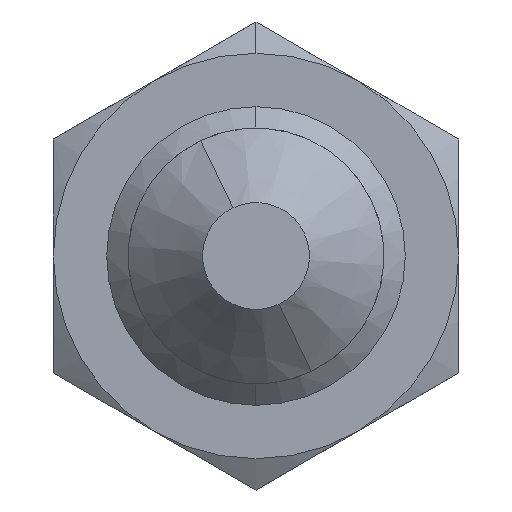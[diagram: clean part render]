
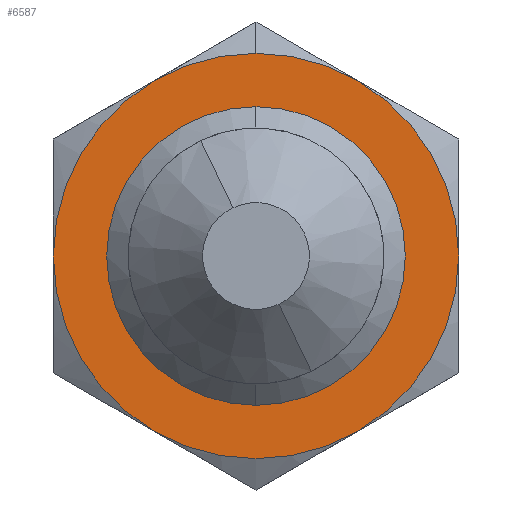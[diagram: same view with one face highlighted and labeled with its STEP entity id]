
A CAD part, left-side view. The second image highlights one B-rep face of the part: STEP entity #6587.
In plain terms, the highlighted planar face has unit normal (-1, 0, 0) as drawn and (0, 0, -1) by its records, which use the part's own axes.
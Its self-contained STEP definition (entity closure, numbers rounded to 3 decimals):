
#291 = VERTEX_POINT ( 'NONE', #1175 ) ;
#297 = VERTEX_POINT ( 'NONE', #1210 ) ;
#1175 = CARTESIAN_POINT ( 'NONE',  ( 8.227, 4.75, -2.5 ) ) ;
#1210 = CARTESIAN_POINT ( 'NONE',  ( 0., 9.5, -2.5 ) ) ;
#2352 = CARTESIAN_POINT ( 'NONE',  ( -8.227, -4.75, -2.5 ) ) ;
#2464 = CARTESIAN_POINT ( 'NONE',  ( 0., -9.5, -2.5 ) ) ;
#2560 = CARTESIAN_POINT ( 'NONE',  ( 8.227, -4.75, -2.5 ) ) ;
#2608 = DIRECTION ( 'NONE',  ( 1., 0., 0. ) ) ;
#2609 = DIRECTION ( 'NONE',  ( 0., 0., 1. ) ) ;
#2610 = CARTESIAN_POINT ( 'NONE',  ( 0., 0., -2.5 ) ) ;
#2611 = AXIS2_PLACEMENT_3D ( 'NONE', #2610, #2609, #2608 ) ;
#2612 = CIRCLE ( 'NONE', #2611, 9.5 ) ;
#2634 = DIRECTION ( 'NONE',  ( 1., 0., 0. ) ) ;
#2636 = DIRECTION ( 'NONE',  ( 0., 0., 1. ) ) ;
#2637 = CARTESIAN_POINT ( 'NONE',  ( 0., 0., -2.5 ) ) ;
#2638 = AXIS2_PLACEMENT_3D ( 'NONE', #2637, #2636, #2634 ) ;
#2639 = CIRCLE ( 'NONE', #2638, 9.5 ) ;
#3410 = AXIS2_PLACEMENT_3D ( 'NONE', #3413, #3472, #3471 ) ;
#3411 = PLANE ( 'NONE',  #3410 ) ;
#3413 = CARTESIAN_POINT ( 'NONE',  ( 5.485, 9.5, -2.5 ) ) ;
#3414 = FACE_OUTER_BOUND ( 'NONE', #6156, .T. ) ;
#3418 = FACE_BOUND ( 'NONE', #6684, .T. ) ;
#3446 = DIRECTION ( 'NONE',  ( 1., 0., 0. ) ) ;
#3447 = DIRECTION ( 'NONE',  ( 0., 0., 1. ) ) ;
#3448 = CARTESIAN_POINT ( 'NONE',  ( 0., 0., -2.5 ) ) ;
#3449 = AXIS2_PLACEMENT_3D ( 'NONE', #3448, #3447, #3446 ) ;
#3450 = CIRCLE ( 'NONE', #3449, 9.5 ) ;
#3471 = DIRECTION ( 'NONE',  ( 1., 0., 0. ) ) ;
#3472 = DIRECTION ( 'NONE',  ( 0., 0., 1. ) ) ;
#3473 = CIRCLE ( 'NONE', #3533, 9.5 ) ;
#3484 = DIRECTION ( 'NONE',  ( 1., 0., 0. ) ) ;
#3485 = DIRECTION ( 'NONE',  ( 0., 0., 1. ) ) ;
#3486 = CARTESIAN_POINT ( 'NONE',  ( 0., 0., -2.5 ) ) ;
#3487 = AXIS2_PLACEMENT_3D ( 'NONE', #3486, #3485, #3484 ) ;
#3488 = CIRCLE ( 'NONE', #3487, 9.5 ) ;
#3525 = DIRECTION ( 'NONE',  ( 1., 0., 0. ) ) ;
#3526 = DIRECTION ( 'NONE',  ( 0., 0., 1. ) ) ;
#3527 = CARTESIAN_POINT ( 'NONE',  ( 0., 0., -2.5 ) ) ;
#3528 = AXIS2_PLACEMENT_3D ( 'NONE', #3527, #3526, #3525 ) ;
#3529 = CIRCLE ( 'NONE', #3528, 9.5 ) ;
#3530 = DIRECTION ( 'NONE',  ( 1., 0., 0. ) ) ;
#3531 = DIRECTION ( 'NONE',  ( 0., 0., 1. ) ) ;
#3532 = CARTESIAN_POINT ( 'NONE',  ( 0., 0., -2.5 ) ) ;
#3533 = AXIS2_PLACEMENT_3D ( 'NONE', #3532, #3531, #3530 ) ;
#3606 = DIRECTION ( 'NONE',  ( 1., 0., 0. ) ) ;
#3607 = DIRECTION ( 'NONE',  ( 0., 0., 1. ) ) ;
#3608 = CARTESIAN_POINT ( 'NONE',  ( 0., 0., -2.5 ) ) ;
#3609 = AXIS2_PLACEMENT_3D ( 'NONE', #3608, #3607, #3606 ) ;
#3614 = CIRCLE ( 'NONE', #3609, 7. ) ;
#4142 = CARTESIAN_POINT ( 'NONE',  ( -9.5, 0., -2.5 ) ) ;
#4172 = CARTESIAN_POINT ( 'NONE',  ( 7., 0., -2.5 ) ) ;
#4173 = DIRECTION ( 'NONE',  ( 1., 0., 0. ) ) ;
#4174 = DIRECTION ( 'NONE',  ( 0., 0., 1. ) ) ;
#4175 = CARTESIAN_POINT ( 'NONE',  ( 0., 0., -2.5 ) ) ;
#4176 = AXIS2_PLACEMENT_3D ( 'NONE', #4175, #4174, #4173 ) ;
#4177 = CIRCLE ( 'NONE', #4176, 7. ) ;
#4178 = CARTESIAN_POINT ( 'NONE',  ( -7., 0., -2.5 ) ) ;
#4179 = DIRECTION ( 'NONE',  ( 1., 0., 0. ) ) ;
#4180 = DIRECTION ( 'NONE',  ( 0., 0., 1. ) ) ;
#4181 = CARTESIAN_POINT ( 'NONE',  ( 0., 0., -2.5 ) ) ;
#4182 = AXIS2_PLACEMENT_3D ( 'NONE', #4181, #4180, #4179 ) ;
#4186 = CIRCLE ( 'NONE', #4182, 9.5 ) ;
#4855 = CARTESIAN_POINT ( 'NONE',  ( -8.227, 4.75, -2.5 ) ) ;
#5957 = VERTEX_POINT ( 'NONE', #2352 ) ;
#6032 = VERTEX_POINT ( 'NONE', #2464 ) ;
#6080 = VERTEX_POINT ( 'NONE', #2560 ) ;
#6095 = ORIENTED_EDGE ( 'NONE', *, *, #6105, .F. ) ;
#6105 = EDGE_CURVE ( 'NONE', #6080, #291, #2612, .T. ) ;
#6121 = ORIENTED_EDGE ( 'NONE', *, *, #6123, .F. ) ;
#6123 = EDGE_CURVE ( 'NONE', #291, #297, #2639, .T. ) ;
#6156 = EDGE_LOOP ( 'NONE', ( #6121, #6095, #6625, #6626, #6613, #6578, #6581 ) ) ;
#6578 = ORIENTED_EDGE ( 'NONE', *, *, #6975, .F. ) ;
#6581 = ORIENTED_EDGE ( 'NONE', *, *, #6602, .F. ) ;
#6587 = ADVANCED_FACE ( 'NONE', ( #3418, #3414 ), #3411, .F. ) ;
#6602 = EDGE_CURVE ( 'NONE', #297, #7372, #3450, .T. ) ;
#6613 = ORIENTED_EDGE ( 'NONE', *, *, #6614, .F. ) ;
#6614 = EDGE_CURVE ( 'NONE', #6964, #5957, #3488, .T. ) ;
#6624 = EDGE_CURVE ( 'NONE', #6032, #6080, #3473, .T. ) ;
#6625 = ORIENTED_EDGE ( 'NONE', *, *, #6624, .F. ) ;
#6626 = ORIENTED_EDGE ( 'NONE', *, *, #6627, .F. ) ;
#6627 = EDGE_CURVE ( 'NONE', #5957, #6032, #3529, .T. ) ;
#6684 = EDGE_LOOP ( 'NONE', ( #6685, #6687 ) ) ;
#6685 = ORIENTED_EDGE ( 'NONE', *, *, #6977, .T. ) ;
#6687 = ORIENTED_EDGE ( 'NONE', *, *, #6689, .T. ) ;
#6689 = EDGE_CURVE ( 'NONE', #6979, #6976, #3614, .T. ) ;
#6964 = VERTEX_POINT ( 'NONE', #4142 ) ;
#6975 = EDGE_CURVE ( 'NONE', #7372, #6964, #4186, .T. ) ;
#6976 = VERTEX_POINT ( 'NONE', #4178 ) ;
#6977 = EDGE_CURVE ( 'NONE', #6976, #6979, #4177, .T. ) ;
#6979 = VERTEX_POINT ( 'NONE', #4172 ) ;
#7372 = VERTEX_POINT ( 'NONE', #4855 ) ;
